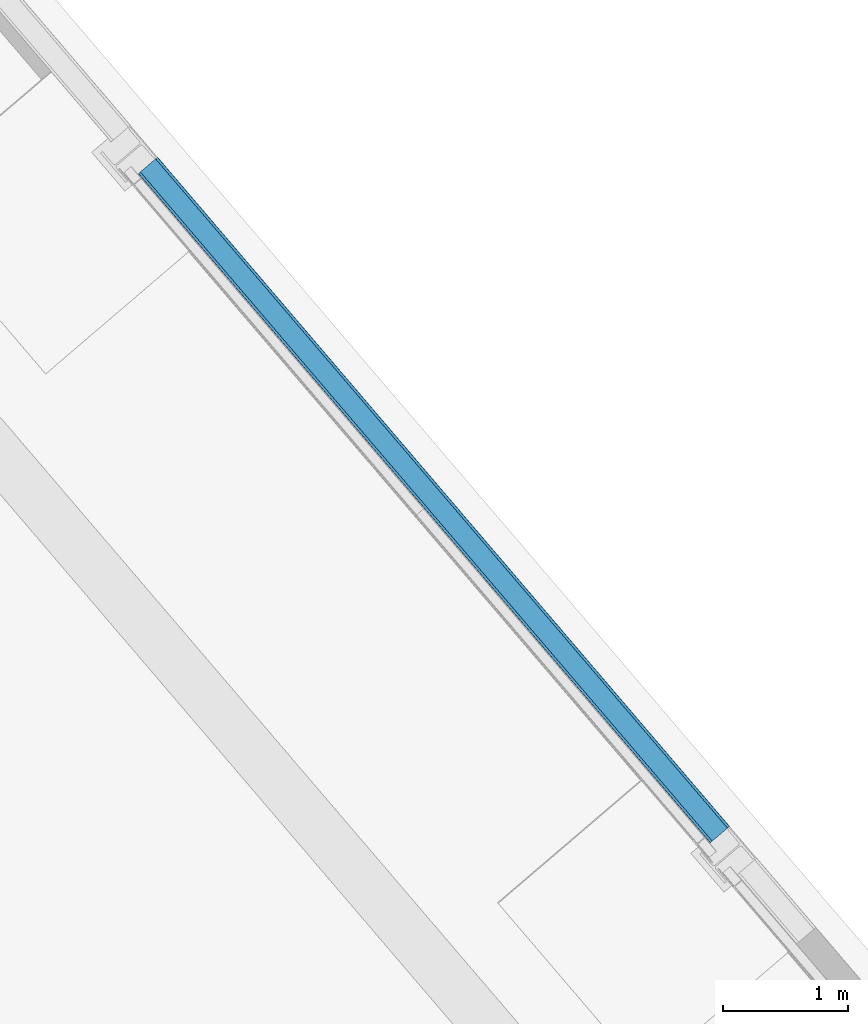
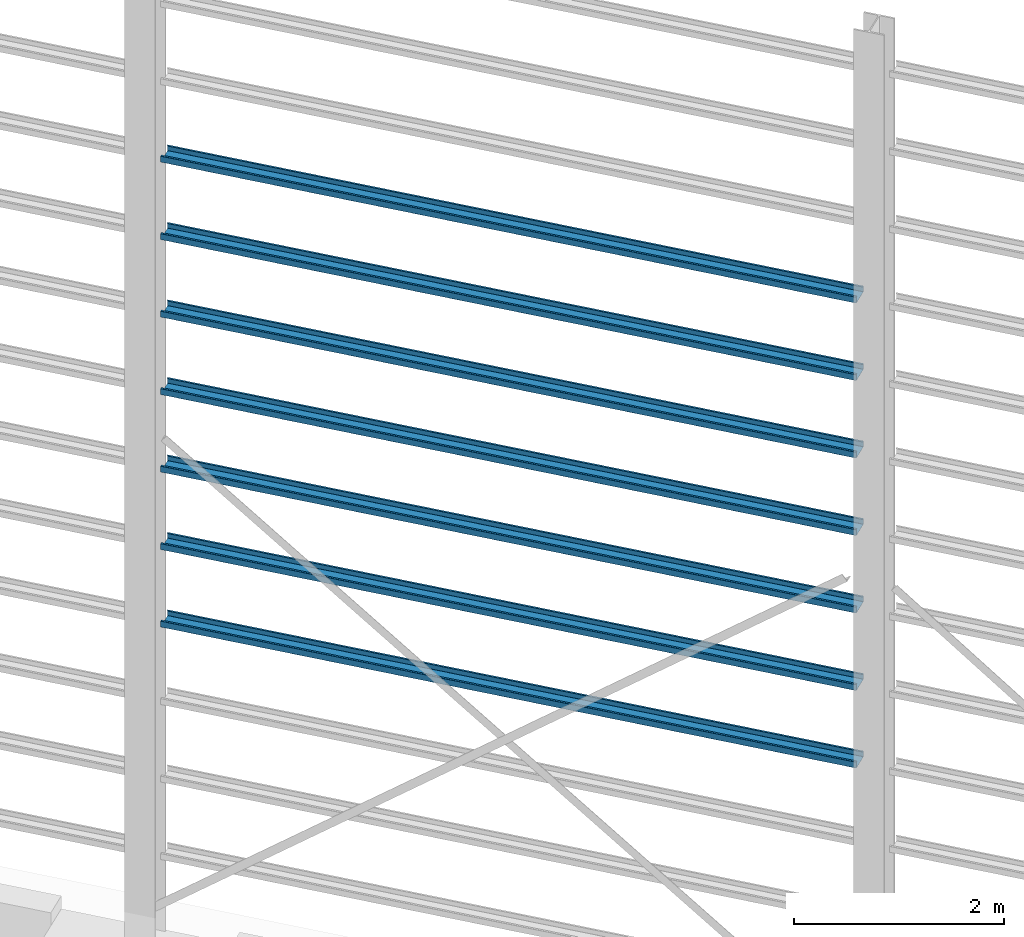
# One storey, part 28 of 41: 7 beams, 1 element without a shape of its own.
"""IFC2X3 building model written with IfcOpenShell, lengths in millimetres."""

from ifc_helpers import new_model, entity, si_unit, converted_unit, derived_unit, direction, frame, frame_2d, origin, place, context, subcontext, project, spatial, polyline, circle_curve, parameter, trimmed, segment, composite_curve, outline, extrude, material, type_object, element, aggregate, save


model = new_model("IFC2X3")

# Units and contexts
model_context = context("Model", 3, precision=0.01, world=origin(), true_north=direction((6.123031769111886e-17, 1.0)))
body_context = subcontext(model_context, "Body", "Model", "MODEL_VIEW")
ifc_project = project(units=[si_unit("LENGTHUNIT", "METRE", prefix="MILLI"), si_unit("AREAUNIT", "SQUARE_METRE"), si_unit("VOLUMEUNIT", "CUBIC_METRE"), converted_unit("PLANEANGLEUNIT", "DEGREE", entity("IfcRatioMeasure", 0.017453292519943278), si_unit("PLANEANGLEUNIT", "RADIAN"), dimensions=[0, 0, 0, 0, 0, 0, 0]), si_unit("MASSUNIT", "GRAM", prefix="KILO"), derived_unit("MASSDENSITYUNIT", [(si_unit("MASSUNIT", "GRAM", prefix="KILO"), 1), (si_unit("LENGTHUNIT", "METRE"), -3)]), derived_unit("MOMENTOFINERTIAUNIT", [(si_unit("LENGTHUNIT", "METRE"), 4)]), si_unit("TIMEUNIT", "SECOND"), si_unit("FREQUENCYUNIT", "HERTZ"), si_unit("THERMODYNAMICTEMPERATUREUNIT", "DEGREE_CELSIUS"), derived_unit("THERMALTRANSMITTANCEUNIT", [(si_unit("MASSUNIT", "GRAM", prefix="KILO"), 1), (si_unit("THERMODYNAMICTEMPERATUREUNIT", "KELVIN"), -1), (si_unit("TIMEUNIT", "SECOND"), -3)]), derived_unit("VOLUMETRICFLOWRATEUNIT", [(si_unit("LENGTHUNIT", "METRE"), 3), (si_unit("TIMEUNIT", "SECOND"), -1)]), derived_unit("MASSFLOWRATEUNIT", [(si_unit("MASSUNIT", "GRAM", prefix="KILO"), 1), (si_unit("TIMEUNIT", "SECOND"), -1)]), derived_unit("ROTATIONALFREQUENCYUNIT", [(si_unit("TIMEUNIT", "SECOND"), -1)]), si_unit("ELECTRICCURRENTUNIT", "AMPERE"), si_unit("ELECTRICVOLTAGEUNIT", "VOLT"), si_unit("POWERUNIT", "WATT"), si_unit("FORCEUNIT", "NEWTON", prefix="KILO"), si_unit("ILLUMINANCEUNIT", "LUX"), si_unit("LUMINOUSFLUXUNIT", "LUMEN"), si_unit("LUMINOUSINTENSITYUNIT", "CANDELA"), derived_unit("USERDEFINED", [(si_unit("MASSUNIT", "GRAM", prefix="KILO"), -1), (si_unit("LENGTHUNIT", "METRE"), -2), (si_unit("TIMEUNIT", "SECOND"), 3), (si_unit("LUMINOUSFLUXUNIT", "LUMEN"), 1)]), derived_unit("SOUNDPOWERUNIT", [(si_unit("MASSUNIT", "GRAM", prefix="KILO"), 1), (si_unit("LENGTHUNIT", "METRE"), 2), (si_unit("TIMEUNIT", "SECOND"), -3)]), derived_unit("LINEARVELOCITYUNIT", [(si_unit("LENGTHUNIT", "METRE"), 1), (si_unit("TIMEUNIT", "SECOND"), -1)]), si_unit("PRESSUREUNIT", "PASCAL"), derived_unit("USERDEFINED", [(si_unit("LENGTHUNIT", "METRE"), -2), (si_unit("MASSUNIT", "GRAM", prefix="KILO"), 1), (si_unit("TIMEUNIT", "SECOND"), -2)]), derived_unit("LINEARFORCEUNIT", [(si_unit("MASSUNIT", "GRAM", prefix="KILO"), 1), (si_unit("LENGTHUNIT", "METRE"), 1), (si_unit("TIMEUNIT", "SECOND"), -2), (si_unit("LENGTHUNIT", "METRE"), -1)]), derived_unit("PLANARFORCEUNIT", [(si_unit("MASSUNIT", "GRAM", prefix="KILO"), 1), (si_unit("LENGTHUNIT", "METRE"), 1), (si_unit("TIMEUNIT", "SECOND"), -2), (si_unit("LENGTHUNIT", "METRE"), -2)])], contexts=[model_context])

# Site, building, storey
site_placement = place(None, frame((962.4174930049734, -6014.433753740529, 0.0), z_axis=(0.0, 0.0, 1.0), x_axis=(0.7601792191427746, 0.649713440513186, 0.0)))
site = spatial("IfcSite", under=ifc_project, at=site_placement, Name="Default", CompositionType="ELEMENT")
building_placement = place(site_placement, origin())
building = spatial("IfcBuilding", under=site, at=building_placement, CompositionType="ELEMENT")
storey_placement = place(building_placement, origin())
storey = spatial("IfcBuildingStorey", under=building, at=storey_placement, Name="Datum", CompositionType="ELEMENT", Elevation=0.0)

# Assembly, beams
assembly_placement = place(building_placement, origin())
assembly = element("IfcElementAssembly", 1, at=assembly_placement, inside=storey, Name="Structural Beam System:Structural Beam System 1", ObjectType="Structural Beam System:Structural Beam System 1", AssemblyPlace="NOTDEFINED", PredefinedType="BEAM_GRID")
ifc_material = material(Name="Metal - Light Gauge")
beam_type = type_object("IfcBeamType", Name="ADSK_AUS_Light Gauge-Joists:C20015", PredefinedType="NOTDEFINED")
beam_1_placement = place(building_placement, frame((185748.56020470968, -11068.428082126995, 8703.927665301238), z_axis=(0.0, 0.0, 1.0), x_axis=(0.0, 1.0, 0.0)))
beam_1 = element("IfcBeam", 2, at=beam_1_placement, type_object=beam_type, material=ifc_material, Name="ADSK_AUS_Light Gauge-Joists:C20015", ObjectType="ADSK_AUS_Light Gauge-Joists:C20015", context=body_context, shape_type="SweptSolid", body=[
    extrude(outline(composite_curve([segment(polyline([(-25.691849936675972, -101.50000000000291), (39.491849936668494, -101.50000000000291)]), True, "CONTINUOUS"), segment(trimmed(circle_curve(frame_2d((39.49184993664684, -98.8418499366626), x_axis=(0.0, -1.0)), 2.658150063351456), [parameter(0.0)], [parameter(89.99999999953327)], True, "PARAMETER"), True, "CONTINUOUS"), segment(polyline([(42.149999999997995, -98.8418499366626), (42.149999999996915, 98.84184993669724)]), True, "CONTINUOUS"), segment(trimmed(circle_curve(frame_2d((39.49184993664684, 98.84184993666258), x_axis=(1.0, 0.0)), 2.658150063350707), [parameter(0.0)], [parameter(89.99999999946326)], True, "PARAMETER"), True, "CONTINUOUS"), segment(polyline([(39.49184993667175, 101.50000000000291), (-25.691849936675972, 101.50000000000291)]), True, "CONTINUOUS"), segment(trimmed(circle_curve(frame_2d((-25.69184993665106, 98.84184993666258), x_axis=(0.0, 1.0)), 2.658150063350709), [parameter(0.0)], [parameter(89.99999999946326)], True, "PARAMETER"), True, "CONTINUOUS"), segment(polyline([(-28.35000000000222, 98.84184993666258), (-28.35000000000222, 80.0)]), True, "CONTINUOUS"), segment(polyline([(-28.35000000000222, 80.0), (-26.85000000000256, 80.0)]), True, "CONTINUOUS"), segment(polyline([(-26.85000000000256, 80.0), (-26.85000000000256, 98.42934993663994)]), True, "CONTINUOUS"), segment(trimmed(circle_curve(frame_2d((-25.279349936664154, 98.4293499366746), x_axis=(-1.0, 0.0)), 1.570650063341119), [parameter(270.00000000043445)], [parameter(0.0)], True, "PARAMETER"), False, "CONTINUOUS"), segment(polyline([(-25.279349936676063, 100.0), (39.07934993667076, 100.0)]), True, "CONTINUOUS"), segment(trimmed(circle_curve(frame_2d((39.07934993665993, 98.4293499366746), x_axis=(0.0, 1.0)), 1.570650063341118), [parameter(270.00000000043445)], [parameter(0.0)], True, "PARAMETER"), False, "CONTINUOUS"), segment(polyline([(40.649999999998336, 98.4293499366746), (40.649999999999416, -98.4293499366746)]), True, "CONTINUOUS"), segment(trimmed(circle_curve(frame_2d((39.07934993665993, -98.4293499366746), x_axis=(1.0, 0.0)), 1.570650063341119), [parameter(270.00000000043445)], [parameter(0.0)], True, "PARAMETER"), False, "CONTINUOUS"), segment(polyline([(39.07934993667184, -100.0), (-25.279349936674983, -100.0)]), True, "CONTINUOUS"), segment(trimmed(circle_curve(frame_2d((-25.279349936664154, -98.4293499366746), x_axis=(0.0, -1.0)), 1.570650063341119), [parameter(270.00000000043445)], [parameter(0.0)], True, "PARAMETER"), False, "CONTINUOUS"), segment(polyline([(-26.85000000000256, -98.4293499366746), (-26.85000000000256, -80.0)]), True, "CONTINUOUS"), segment(polyline([(-26.85000000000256, -80.0), (-28.35000000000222, -80.0)]), True, "CONTINUOUS"), segment(polyline([(-28.35000000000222, -80.0), (-28.35000000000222, -98.84184993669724)]), True, "CONTINUOUS"), segment(trimmed(circle_curve(frame_2d((-25.69184993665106, -98.8418499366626), x_axis=(-1.0, 0.0)), 2.6581500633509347), [parameter(0.0)], [parameter(89.99999999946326)], True, "PARAMETER"), True, "CONTINUOUS")], self_intersect=False)), frame((13.168750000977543, -101.50000000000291, 42.149999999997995), z_axis=(1.0, 0.0, 0.0), x_axis=(0.0, 0.0, -1.0)), (0.0, 0.0, 1.0), 7021.000000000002),
])
beam_2_placement = place(building_placement, frame((185748.56020470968, -11068.428082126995, 7803.927665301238), z_axis=(0.0, 0.0, 1.0), x_axis=(0.0, 1.0, 0.0)))
beam_2 = element("IfcBeam", 3, at=beam_2_placement, type_object=beam_type, material=ifc_material, Name="ADSK_AUS_Light Gauge-Joists:C20015", ObjectType="ADSK_AUS_Light Gauge-Joists:C20015", context=body_context, shape_type="SweptSolid", body=[
    extrude(outline(composite_curve([segment(polyline([(-25.691849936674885, -101.50000000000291), (39.49184993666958, -101.50000000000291)]), True, "CONTINUOUS"), segment(trimmed(circle_curve(frame_2d((39.491849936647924, -98.8418499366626), x_axis=(0.0, -1.0)), 2.658150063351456), [parameter(0.0)], [parameter(89.99999999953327)], True, "PARAMETER"), True, "CONTINUOUS"), segment(polyline([(42.14999999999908, -98.8418499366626), (42.149999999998, 98.84184993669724)]), True, "CONTINUOUS"), segment(trimmed(circle_curve(frame_2d((39.491849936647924, 98.84184993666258), x_axis=(1.0, 0.0)), 2.658150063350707), [parameter(0.0)], [parameter(89.99999999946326)], True, "PARAMETER"), True, "CONTINUOUS"), segment(polyline([(39.491849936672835, 101.50000000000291), (-25.691849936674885, 101.50000000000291)]), True, "CONTINUOUS"), segment(trimmed(circle_curve(frame_2d((-25.691849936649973, 98.84184993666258), x_axis=(0.0, 1.0)), 2.658150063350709), [parameter(0.0)], [parameter(89.99999999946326)], True, "PARAMETER"), True, "CONTINUOUS"), segment(polyline([(-28.35000000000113, 98.84184993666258), (-28.35000000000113, 80.0)]), True, "CONTINUOUS"), segment(polyline([(-28.35000000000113, 80.0), (-26.850000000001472, 80.0)]), True, "CONTINUOUS"), segment(polyline([(-26.850000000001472, 80.0), (-26.850000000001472, 98.42934993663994)]), True, "CONTINUOUS"), segment(trimmed(circle_curve(frame_2d((-25.279349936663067, 98.4293499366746), x_axis=(-1.0, 0.0)), 1.570650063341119), [parameter(270.00000000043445)], [parameter(0.0)], True, "PARAMETER"), False, "CONTINUOUS"), segment(polyline([(-25.279349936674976, 100.0), (39.079349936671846, 100.0)]), True, "CONTINUOUS"), segment(trimmed(circle_curve(frame_2d((39.07934993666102, 98.4293499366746), x_axis=(0.0, 1.0)), 1.570650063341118), [parameter(270.00000000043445)], [parameter(0.0)], True, "PARAMETER"), False, "CONTINUOUS"), segment(polyline([(40.64999999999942, 98.4293499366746), (40.6500000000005, -98.4293499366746)]), True, "CONTINUOUS"), segment(trimmed(circle_curve(frame_2d((39.07934993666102, -98.4293499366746), x_axis=(1.0, 0.0)), 1.570650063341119), [parameter(270.00000000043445)], [parameter(0.0)], True, "PARAMETER"), False, "CONTINUOUS"), segment(polyline([(39.079349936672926, -100.0), (-25.279349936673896, -100.0)]), True, "CONTINUOUS"), segment(trimmed(circle_curve(frame_2d((-25.279349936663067, -98.4293499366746), x_axis=(0.0, -1.0)), 1.570650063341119), [parameter(270.00000000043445)], [parameter(0.0)], True, "PARAMETER"), False, "CONTINUOUS"), segment(polyline([(-26.850000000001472, -98.4293499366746), (-26.850000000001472, -80.0)]), True, "CONTINUOUS"), segment(polyline([(-26.850000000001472, -80.0), (-28.35000000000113, -80.0)]), True, "CONTINUOUS"), segment(polyline([(-28.35000000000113, -80.0), (-28.35000000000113, -98.84184993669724)]), True, "CONTINUOUS"), segment(trimmed(circle_curve(frame_2d((-25.691849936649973, -98.8418499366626), x_axis=(-1.0, 0.0)), 2.6581500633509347), [parameter(0.0)], [parameter(89.99999999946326)], True, "PARAMETER"), True, "CONTINUOUS")], self_intersect=False)), frame((13.168750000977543, -101.50000000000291, 42.14999999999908), z_axis=(1.0, 0.0, 0.0), x_axis=(0.0, 0.0, -1.0)), (0.0, 0.0, 1.0), 7021.000000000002),
])
beam_3_placement = place(building_placement, frame((185748.56020470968, -11068.428082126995, 6903.927665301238), z_axis=(0.0, 0.0, 1.0), x_axis=(0.0, 1.0, 0.0)))
beam_3 = element("IfcBeam", 4, at=beam_3_placement, type_object=beam_type, material=ifc_material, Name="ADSK_AUS_Light Gauge-Joists:C20015", ObjectType="ADSK_AUS_Light Gauge-Joists:C20015", context=body_context, shape_type="SweptSolid", body=[
    extrude(outline(composite_curve([segment(polyline([(-25.691849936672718, -101.50000000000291), (39.49184993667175, -101.50000000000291)]), True, "CONTINUOUS"), segment(trimmed(circle_curve(frame_2d((39.49184993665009, -98.8418499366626), x_axis=(0.0, -1.0)), 2.658150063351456), [parameter(0.0)], [parameter(89.99999999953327)], True, "PARAMETER"), True, "CONTINUOUS"), segment(polyline([(42.15000000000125, -98.8418499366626), (42.15000000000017, 98.84184993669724)]), True, "CONTINUOUS"), segment(trimmed(circle_curve(frame_2d((39.49184993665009, 98.84184993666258), x_axis=(1.0, 0.0)), 2.658150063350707), [parameter(0.0)], [parameter(89.99999999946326)], True, "PARAMETER"), True, "CONTINUOUS"), segment(polyline([(39.491849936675, 101.50000000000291), (-25.691849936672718, 101.50000000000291)]), True, "CONTINUOUS"), segment(trimmed(circle_curve(frame_2d((-25.691849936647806, 98.84184993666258), x_axis=(0.0, 1.0)), 2.658150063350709), [parameter(0.0)], [parameter(89.99999999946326)], True, "PARAMETER"), True, "CONTINUOUS"), segment(polyline([(-28.349999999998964, 98.84184993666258), (-28.349999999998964, 80.0)]), True, "CONTINUOUS"), segment(polyline([(-28.349999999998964, 80.0), (-26.849999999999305, 80.0)]), True, "CONTINUOUS"), segment(polyline([(-26.849999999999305, 80.0), (-26.849999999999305, 98.42934993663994)]), True, "CONTINUOUS"), segment(trimmed(circle_curve(frame_2d((-25.2793499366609, 98.4293499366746), x_axis=(-1.0, 0.0)), 1.570650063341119), [parameter(270.00000000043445)], [parameter(0.0)], True, "PARAMETER"), False, "CONTINUOUS"), segment(polyline([(-25.27934993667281, 100.0), (39.079349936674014, 100.0)]), True, "CONTINUOUS"), segment(trimmed(circle_curve(frame_2d((39.079349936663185, 98.4293499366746), x_axis=(0.0, 1.0)), 1.570650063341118), [parameter(270.00000000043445)], [parameter(0.0)], True, "PARAMETER"), False, "CONTINUOUS"), segment(polyline([(40.65000000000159, 98.4293499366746), (40.65000000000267, -98.4293499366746)]), True, "CONTINUOUS"), segment(trimmed(circle_curve(frame_2d((39.079349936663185, -98.4293499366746), x_axis=(1.0, 0.0)), 1.570650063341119), [parameter(270.00000000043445)], [parameter(0.0)], True, "PARAMETER"), False, "CONTINUOUS"), segment(polyline([(39.079349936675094, -100.0), (-25.27934993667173, -100.0)]), True, "CONTINUOUS"), segment(trimmed(circle_curve(frame_2d((-25.2793499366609, -98.4293499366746), x_axis=(0.0, -1.0)), 1.570650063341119), [parameter(270.00000000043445)], [parameter(0.0)], True, "PARAMETER"), False, "CONTINUOUS"), segment(polyline([(-26.849999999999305, -98.4293499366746), (-26.849999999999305, -80.0)]), True, "CONTINUOUS"), segment(polyline([(-26.849999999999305, -80.0), (-28.349999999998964, -80.0)]), True, "CONTINUOUS"), segment(polyline([(-28.349999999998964, -80.0), (-28.349999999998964, -98.84184993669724)]), True, "CONTINUOUS"), segment(trimmed(circle_curve(frame_2d((-25.691849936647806, -98.8418499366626), x_axis=(-1.0, 0.0)), 2.6581500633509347), [parameter(0.0)], [parameter(89.99999999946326)], True, "PARAMETER"), True, "CONTINUOUS")], self_intersect=False)), frame((13.168750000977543, -101.50000000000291, 42.15000000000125), z_axis=(1.0, 0.0, 0.0), x_axis=(0.0, 0.0, -1.0)), (0.0, 0.0, 1.0), 7021.000000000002),
])
beam_4_placement = place(building_placement, frame((185748.56020470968, -11068.428082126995, 6003.927665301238), z_axis=(0.0, 0.0, 1.0), x_axis=(0.0, 1.0, 0.0)))
beam_4 = element("IfcBeam", 5, at=beam_4_placement, type_object=beam_type, material=ifc_material, Name="ADSK_AUS_Light Gauge-Joists:C20015", ObjectType="ADSK_AUS_Light Gauge-Joists:C20015", context=body_context, shape_type="SweptSolid", body=[
    extrude(outline(composite_curve([segment(polyline([(-25.691849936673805, -101.50000000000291), (39.49184993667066, -101.50000000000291)]), True, "CONTINUOUS"), segment(trimmed(circle_curve(frame_2d((39.491849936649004, -98.8418499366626), x_axis=(0.0, -1.0)), 2.658150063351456), [parameter(0.0)], [parameter(89.99999999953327)], True, "PARAMETER"), True, "CONTINUOUS"), segment(polyline([(42.15000000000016, -98.8418499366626), (42.14999999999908, 98.84184993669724)]), True, "CONTINUOUS"), segment(trimmed(circle_curve(frame_2d((39.491849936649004, 98.84184993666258), x_axis=(1.0, 0.0)), 2.658150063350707), [parameter(0.0)], [parameter(89.99999999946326)], True, "PARAMETER"), True, "CONTINUOUS"), segment(polyline([(39.491849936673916, 101.50000000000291), (-25.691849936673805, 101.50000000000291)]), True, "CONTINUOUS"), segment(trimmed(circle_curve(frame_2d((-25.691849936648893, 98.84184993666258), x_axis=(0.0, 1.0)), 2.658150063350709), [parameter(0.0)], [parameter(89.99999999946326)], True, "PARAMETER"), True, "CONTINUOUS"), segment(polyline([(-28.35000000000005, 98.84184993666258), (-28.35000000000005, 80.0)]), True, "CONTINUOUS"), segment(polyline([(-28.35000000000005, 80.0), (-26.850000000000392, 80.0)]), True, "CONTINUOUS"), segment(polyline([(-26.850000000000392, 80.0), (-26.850000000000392, 98.42934993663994)]), True, "CONTINUOUS"), segment(trimmed(circle_curve(frame_2d((-25.279349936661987, 98.4293499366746), x_axis=(-1.0, 0.0)), 1.570650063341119), [parameter(270.00000000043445)], [parameter(0.0)], True, "PARAMETER"), False, "CONTINUOUS"), segment(polyline([(-25.279349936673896, 100.0), (39.079349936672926, 100.0)]), True, "CONTINUOUS"), segment(trimmed(circle_curve(frame_2d((39.0793499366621, 98.4293499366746), x_axis=(0.0, 1.0)), 1.570650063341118), [parameter(270.00000000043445)], [parameter(0.0)], True, "PARAMETER"), False, "CONTINUOUS"), segment(polyline([(40.6500000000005, 98.4293499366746), (40.65000000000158, -98.4293499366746)]), True, "CONTINUOUS"), segment(trimmed(circle_curve(frame_2d((39.0793499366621, -98.4293499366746), x_axis=(1.0, 0.0)), 1.570650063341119), [parameter(270.00000000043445)], [parameter(0.0)], True, "PARAMETER"), False, "CONTINUOUS"), segment(polyline([(39.07934993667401, -100.0), (-25.279349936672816, -100.0)]), True, "CONTINUOUS"), segment(trimmed(circle_curve(frame_2d((-25.279349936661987, -98.4293499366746), x_axis=(0.0, -1.0)), 1.570650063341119), [parameter(270.00000000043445)], [parameter(0.0)], True, "PARAMETER"), False, "CONTINUOUS"), segment(polyline([(-26.850000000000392, -98.4293499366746), (-26.850000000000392, -80.0)]), True, "CONTINUOUS"), segment(polyline([(-26.850000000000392, -80.0), (-28.35000000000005, -80.0)]), True, "CONTINUOUS"), segment(polyline([(-28.35000000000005, -80.0), (-28.35000000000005, -98.84184993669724)]), True, "CONTINUOUS"), segment(trimmed(circle_curve(frame_2d((-25.691849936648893, -98.8418499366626), x_axis=(-1.0, 0.0)), 2.6581500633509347), [parameter(0.0)], [parameter(89.99999999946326)], True, "PARAMETER"), True, "CONTINUOUS")], self_intersect=False)), frame((13.168750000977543, -101.50000000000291, 42.15000000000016), z_axis=(1.0, 0.0, 0.0), x_axis=(0.0, 0.0, -1.0)), (0.0, 0.0, 1.0), 7021.000000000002),
])
beam_5_placement = place(building_placement, frame((185748.56020470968, -11068.428082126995, 5103.927665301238), z_axis=(0.0, 0.0, 1.0), x_axis=(0.0, 1.0, 0.0)))
beam_5 = element("IfcBeam", 6, at=beam_5_placement, type_object=beam_type, material=ifc_material, Name="ADSK_AUS_Light Gauge-Joists:C20015", ObjectType="ADSK_AUS_Light Gauge-Joists:C20015", context=body_context, shape_type="SweptSolid", body=[
    extrude(outline(composite_curve([segment(polyline([(-25.691849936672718, -101.50000000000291), (39.49184993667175, -101.50000000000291)]), True, "CONTINUOUS"), segment(trimmed(circle_curve(frame_2d((39.49184993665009, -98.8418499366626), x_axis=(0.0, -1.0)), 2.658150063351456), [parameter(0.0)], [parameter(89.99999999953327)], True, "PARAMETER"), True, "CONTINUOUS"), segment(polyline([(42.15000000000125, -98.8418499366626), (42.15000000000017, 98.84184993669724)]), True, "CONTINUOUS"), segment(trimmed(circle_curve(frame_2d((39.49184993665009, 98.84184993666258), x_axis=(1.0, 0.0)), 2.658150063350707), [parameter(0.0)], [parameter(89.99999999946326)], True, "PARAMETER"), True, "CONTINUOUS"), segment(polyline([(39.491849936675, 101.50000000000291), (-25.691849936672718, 101.50000000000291)]), True, "CONTINUOUS"), segment(trimmed(circle_curve(frame_2d((-25.691849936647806, 98.84184993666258), x_axis=(0.0, 1.0)), 2.658150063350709), [parameter(0.0)], [parameter(89.99999999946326)], True, "PARAMETER"), True, "CONTINUOUS"), segment(polyline([(-28.349999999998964, 98.84184993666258), (-28.349999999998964, 80.0)]), True, "CONTINUOUS"), segment(polyline([(-28.349999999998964, 80.0), (-26.849999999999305, 80.0)]), True, "CONTINUOUS"), segment(polyline([(-26.849999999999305, 80.0), (-26.849999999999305, 98.42934993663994)]), True, "CONTINUOUS"), segment(trimmed(circle_curve(frame_2d((-25.2793499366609, 98.4293499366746), x_axis=(-1.0, 0.0)), 1.570650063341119), [parameter(270.00000000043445)], [parameter(0.0)], True, "PARAMETER"), False, "CONTINUOUS"), segment(polyline([(-25.27934993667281, 100.0), (39.079349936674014, 100.0)]), True, "CONTINUOUS"), segment(trimmed(circle_curve(frame_2d((39.079349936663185, 98.4293499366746), x_axis=(0.0, 1.0)), 1.570650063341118), [parameter(270.00000000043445)], [parameter(0.0)], True, "PARAMETER"), False, "CONTINUOUS"), segment(polyline([(40.65000000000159, 98.4293499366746), (40.65000000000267, -98.4293499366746)]), True, "CONTINUOUS"), segment(trimmed(circle_curve(frame_2d((39.079349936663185, -98.4293499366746), x_axis=(1.0, 0.0)), 1.570650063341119), [parameter(270.00000000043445)], [parameter(0.0)], True, "PARAMETER"), False, "CONTINUOUS"), segment(polyline([(39.079349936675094, -100.0), (-25.27934993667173, -100.0)]), True, "CONTINUOUS"), segment(trimmed(circle_curve(frame_2d((-25.2793499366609, -98.4293499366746), x_axis=(0.0, -1.0)), 1.570650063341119), [parameter(270.00000000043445)], [parameter(0.0)], True, "PARAMETER"), False, "CONTINUOUS"), segment(polyline([(-26.849999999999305, -98.4293499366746), (-26.849999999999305, -80.0)]), True, "CONTINUOUS"), segment(polyline([(-26.849999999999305, -80.0), (-28.349999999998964, -80.0)]), True, "CONTINUOUS"), segment(polyline([(-28.349999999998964, -80.0), (-28.349999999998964, -98.84184993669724)]), True, "CONTINUOUS"), segment(trimmed(circle_curve(frame_2d((-25.691849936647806, -98.8418499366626), x_axis=(-1.0, 0.0)), 2.6581500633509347), [parameter(0.0)], [parameter(89.99999999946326)], True, "PARAMETER"), True, "CONTINUOUS")], self_intersect=False)), frame((13.168750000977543, -101.50000000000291, 42.15000000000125), z_axis=(1.0, 0.0, 0.0), x_axis=(0.0, 0.0, -1.0)), (0.0, 0.0, 1.0), 7021.000000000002),
])
beam_6_placement = place(building_placement, frame((185748.56020470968, -11068.428082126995, 4203.927665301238), z_axis=(0.0, 0.0, 1.0), x_axis=(0.0, 1.0, 0.0)))
beam_6 = element("IfcBeam", 7, at=beam_6_placement, type_object=beam_type, material=ifc_material, Name="ADSK_AUS_Light Gauge-Joists:C20015", ObjectType="ADSK_AUS_Light Gauge-Joists:C20015", context=body_context, shape_type="SweptSolid", body=[
    extrude(outline(composite_curve([segment(polyline([(-25.691849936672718, -101.50000000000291), (39.49184993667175, -101.50000000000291)]), True, "CONTINUOUS"), segment(trimmed(circle_curve(frame_2d((39.49184993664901, -98.8418499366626), x_axis=(0.0, -1.0)), 2.6581500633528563), [parameter(0.0)], [parameter(89.99999999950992)], True, "PARAMETER"), True, "CONTINUOUS"), segment(polyline([(42.15000000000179, -98.8418499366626), (42.15000000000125, 98.84184993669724)]), True, "CONTINUOUS"), segment(trimmed(circle_curve(frame_2d((39.49184993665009, 98.84184993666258), x_axis=(1.0, 0.0)), 2.658150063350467), [parameter(0.0)], [parameter(89.99999999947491)], True, "PARAMETER"), True, "CONTINUOUS"), segment(polyline([(39.491849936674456, 101.50000000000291), (-25.691849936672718, 101.50000000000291)]), True, "CONTINUOUS"), segment(trimmed(circle_curve(frame_2d((-25.6918499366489, 98.84184993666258), x_axis=(0.0, 1.0)), 2.6581500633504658), [parameter(0.0)], [parameter(89.99999999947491)], True, "PARAMETER"), True, "CONTINUOUS"), segment(polyline([(-28.349999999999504, 98.84184993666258), (-28.349999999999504, 80.0)]), True, "CONTINUOUS"), segment(polyline([(-28.349999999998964, 80.0), (-26.849999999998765, 80.0)]), True, "CONTINUOUS"), segment(polyline([(-26.849999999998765, 80.0), (-26.849999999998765, 98.42934993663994)]), True, "CONTINUOUS"), segment(trimmed(circle_curve(frame_2d((-25.2793499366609, 98.4293499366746), x_axis=(-1.0, 0.0)), 1.570650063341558), [parameter(270.0000000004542)], [parameter(0.0)], True, "PARAMETER"), False, "CONTINUOUS"), segment(polyline([(-25.27934993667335, 100.0), (39.079349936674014, 100.0)]), True, "CONTINUOUS"), segment(trimmed(circle_curve(frame_2d((39.07934993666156, 98.4293499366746), x_axis=(0.0, 1.0)), 1.57065006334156), [parameter(270.0000000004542)], [parameter(0.0)], True, "PARAMETER"), False, "CONTINUOUS"), segment(polyline([(40.65000000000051, 98.4293499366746), (40.65000000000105, -98.4293499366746)]), True, "CONTINUOUS"), segment(trimmed(circle_curve(frame_2d((39.07934993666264, -98.4293499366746), x_axis=(1.0, 0.0)), 1.5706500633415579), [parameter(270.0000000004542)], [parameter(0.0)], True, "PARAMETER"), False, "CONTINUOUS"), segment(polyline([(39.079349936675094, -100.0), (-25.27934993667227, -100.0)]), True, "CONTINUOUS"), segment(trimmed(circle_curve(frame_2d((-25.27934993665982, -98.4293499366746), x_axis=(0.0, -1.0)), 1.5706500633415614), [parameter(270.0000000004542)], [parameter(0.0)], True, "PARAMETER"), False, "CONTINUOUS"), segment(polyline([(-26.849999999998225, -98.4293499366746), (-26.849999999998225, -80.0)]), True, "CONTINUOUS"), segment(polyline([(-26.849999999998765, -80.0), (-28.349999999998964, -80.0)]), True, "CONTINUOUS"), segment(polyline([(-28.349999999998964, -80.0), (-28.349999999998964, -98.84184993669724)]), True, "CONTINUOUS"), segment(trimmed(circle_curve(frame_2d((-25.691849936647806, -98.8418499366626), x_axis=(-1.0, 0.0)), 2.6581500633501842), [parameter(0.0)], [parameter(89.99999999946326)], True, "PARAMETER"), True, "CONTINUOUS")], self_intersect=False)), frame((13.168750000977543, -101.50000000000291, 42.15000000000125), z_axis=(1.0, 0.0, 0.0), x_axis=(0.0, 0.0, -1.0)), (0.0, 0.0, 1.0), 7021.000000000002),
])
beam_7_placement = place(building_placement, frame((185748.56020470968, -11068.428082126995, 3303.9276653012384), z_axis=(0.0, 0.0, 1.0), x_axis=(0.0, 1.0, 0.0)))
beam_7 = element("IfcBeam", 8, at=beam_7_placement, type_object=beam_type, material=ifc_material, Name="ADSK_AUS_Light Gauge-Joists:C20015", ObjectType="ADSK_AUS_Light Gauge-Joists:C20015", context=body_context, shape_type="SweptSolid", body=[
    extrude(outline(composite_curve([segment(polyline([(-25.691849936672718, -101.50000000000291), (39.49184993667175, -101.50000000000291)]), True, "CONTINUOUS"), segment(trimmed(circle_curve(frame_2d((39.49184993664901, -98.8418499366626), x_axis=(0.0, -1.0)), 2.6581500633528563), [parameter(0.0)], [parameter(89.99999999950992)], True, "PARAMETER"), True, "CONTINUOUS"), segment(polyline([(42.15000000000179, -98.8418499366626), (42.15000000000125, 98.84184993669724)]), True, "CONTINUOUS"), segment(trimmed(circle_curve(frame_2d((39.49184993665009, 98.84184993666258), x_axis=(1.0, 0.0)), 2.658150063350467), [parameter(0.0)], [parameter(89.99999999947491)], True, "PARAMETER"), True, "CONTINUOUS"), segment(polyline([(39.491849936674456, 101.50000000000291), (-25.691849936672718, 101.50000000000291)]), True, "CONTINUOUS"), segment(trimmed(circle_curve(frame_2d((-25.6918499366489, 98.84184993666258), x_axis=(0.0, 1.0)), 2.6581500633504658), [parameter(0.0)], [parameter(89.99999999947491)], True, "PARAMETER"), True, "CONTINUOUS"), segment(polyline([(-28.349999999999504, 98.84184993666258), (-28.349999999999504, 80.0)]), True, "CONTINUOUS"), segment(polyline([(-28.349999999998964, 80.0), (-26.849999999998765, 80.0)]), True, "CONTINUOUS"), segment(polyline([(-26.849999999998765, 80.0), (-26.849999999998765, 98.42934993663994)]), True, "CONTINUOUS"), segment(trimmed(circle_curve(frame_2d((-25.2793499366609, 98.4293499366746), x_axis=(-1.0, 0.0)), 1.570650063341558), [parameter(270.0000000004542)], [parameter(0.0)], True, "PARAMETER"), False, "CONTINUOUS"), segment(polyline([(-25.27934993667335, 100.0), (39.079349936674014, 100.0)]), True, "CONTINUOUS"), segment(trimmed(circle_curve(frame_2d((39.07934993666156, 98.4293499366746), x_axis=(0.0, 1.0)), 1.57065006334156), [parameter(270.0000000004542)], [parameter(0.0)], True, "PARAMETER"), False, "CONTINUOUS"), segment(polyline([(40.65000000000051, 98.4293499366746), (40.65000000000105, -98.4293499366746)]), True, "CONTINUOUS"), segment(trimmed(circle_curve(frame_2d((39.07934993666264, -98.4293499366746), x_axis=(1.0, 0.0)), 1.5706500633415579), [parameter(270.0000000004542)], [parameter(0.0)], True, "PARAMETER"), False, "CONTINUOUS"), segment(polyline([(39.079349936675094, -100.0), (-25.27934993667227, -100.0)]), True, "CONTINUOUS"), segment(trimmed(circle_curve(frame_2d((-25.27934993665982, -98.4293499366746), x_axis=(0.0, -1.0)), 1.5706500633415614), [parameter(270.0000000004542)], [parameter(0.0)], True, "PARAMETER"), False, "CONTINUOUS"), segment(polyline([(-26.849999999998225, -98.4293499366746), (-26.849999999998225, -80.0)]), True, "CONTINUOUS"), segment(polyline([(-26.849999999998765, -80.0), (-28.349999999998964, -80.0)]), True, "CONTINUOUS"), segment(polyline([(-28.349999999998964, -80.0), (-28.349999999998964, -98.84184993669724)]), True, "CONTINUOUS"), segment(trimmed(circle_curve(frame_2d((-25.691849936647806, -98.8418499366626), x_axis=(-1.0, 0.0)), 2.6581500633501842), [parameter(0.0)], [parameter(89.99999999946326)], True, "PARAMETER"), True, "CONTINUOUS")], self_intersect=False)), frame((13.168750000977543, -101.50000000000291, 42.15000000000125), z_axis=(1.0, 0.0, 0.0), x_axis=(0.0, 0.0, -1.0)), (0.0, 0.0, 1.0), 7021.000000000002),
])
aggregate(assembly, [beam_1, beam_2, beam_3, beam_4, beam_5, beam_6, beam_7])

save(model, "model.ifc")
